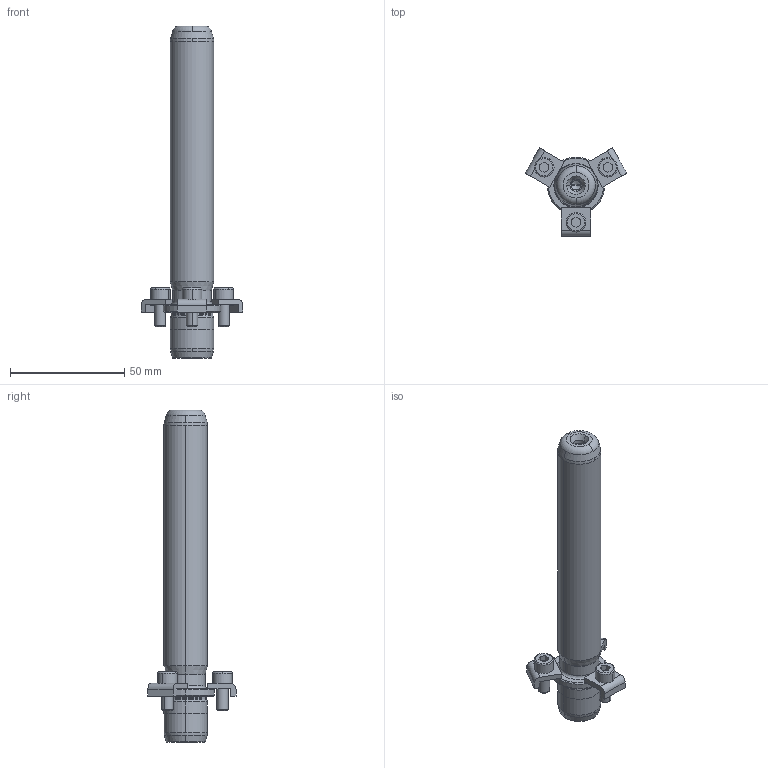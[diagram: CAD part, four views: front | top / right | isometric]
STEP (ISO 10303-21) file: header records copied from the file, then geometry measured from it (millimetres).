
FILE_DESCRIPTION((''),'2;1');
FILE_NAME('P21_019_125.stp','2008-12-18T10:52:11',(''),(''),'Mechanical Desktop 2009','Mechanical Desktop 2009',', , ');
FILE_SCHEMA(('CONFIG_CONTROL_DESIGN'));
Length unit declared in the file: millimetre
Products named in the file (2): Product; blmdl1
Assembly tree (1 placements, depth 2):
  Product
    blmdl1
Bounding box: 44.46 x 38.5 x 145 mm (x, y, z)
Volume: 42830.2 mm3; surface area: 12780.3 mm2
Topology: 7 solids, 7 shells, 163 faces, 399 edges, 257 vertices
Faces by surface type: plane 59, cylinder 44, cone 32, bspline 18, torus 10
Entity records: 5605 total; most frequent: CARTESIAN_POINT 1537, DIRECTION 900, ORIENTED_EDGE 790, EDGE_CURVE 395, AXIS2_PLACEMENT_3D 358, VERTEX_POINT 257, CIRCLE 211, VECTOR 184
